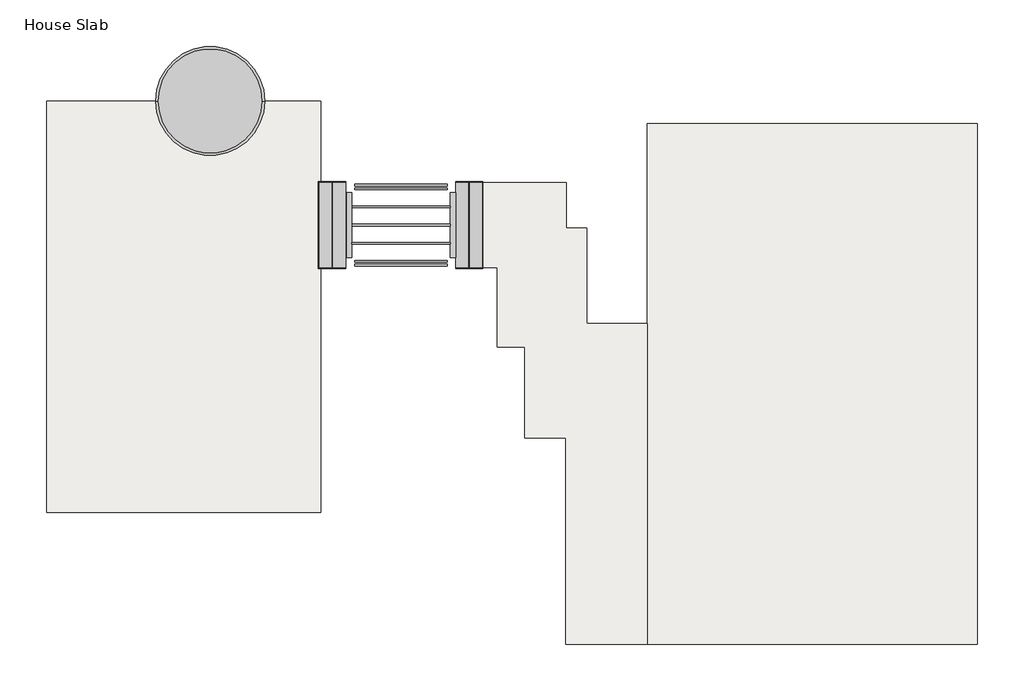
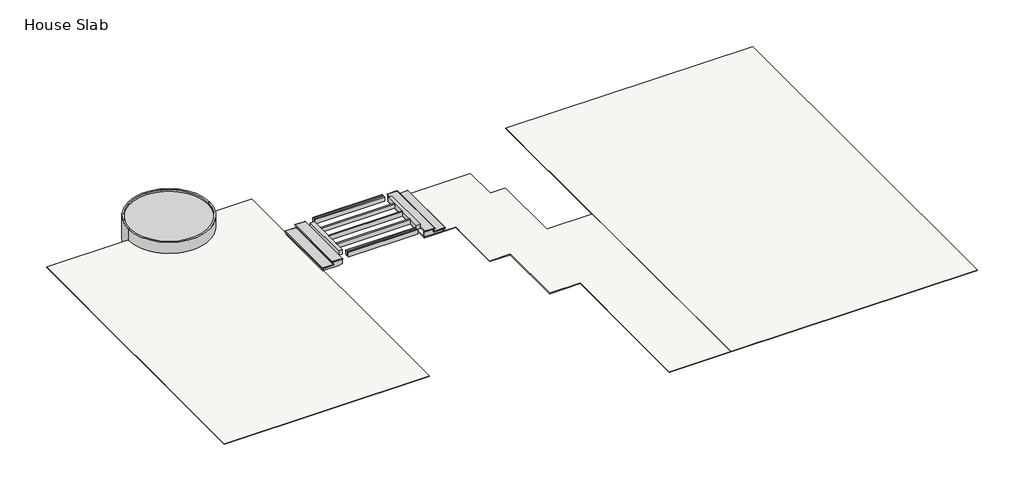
# One storey, incomplete: 9 beams, 4 members, 3 slabs, 2 stair flights, 1 flow terminal.
"""IFC4 building model written with IfcOpenShell, lengths in millimetres."""

from ifc_helpers import new_model, si_unit, point, frame, frame_2d, origin, place, context, project, spatial, polyline, circle_curve, trimmed, segment, composite_curve, outline, extrude, faceted_brep, transform, mapped, element, save
from components import dimension_lumber_1_2x_x6_88afd8e4, dimension_lumber_1_2x_x6_e9ca1189, dimension_lumber_3_2x_x6_f6200c4b, flow_terminal_bd86caa1, main_stair_61a61aa4, main_stair_c9b1c475

model = new_model("IFC4")

# Units and contexts
model_context = context("Model", 3, world=origin())
ifc_project = project(units=[si_unit("LENGTHUNIT", "METRE", prefix="MILLI")], contexts=[model_context])

# Site, building, storey
site = spatial("IfcSite", under=ifc_project)
building = spatial("IfcBuilding", under=site)
storey = spatial("IfcBuildingStorey", under=building, Name="House Slab", Elevation=0.0)

# Beams
placement = place(None, origin())
dimension_lumber_1_2x_x6_shape = dimension_lumber_1_2x_x6_88afd8e4(model_context)
element("IfcBeam", 1, ObjectType="Dimension Lumber (1) 2x : x6", at=placement, inside=storey, context=model_context, shape_type="MappedRepresentation", body=[
    mapped(dimension_lumber_1_2x_x6_shape, transform((4558.6788706, -3532.4439898, 215.9), x_axis=(1.0, 0.0, 0.0), y_axis=(0.0, 1.0, 0.0), z_axis=(0.0, 0.0, 1.0))),
])
element("IfcBeam", 2, ObjectType="Dimension Lumber (1) 2x : x6", at=placement, inside=storey, context=model_context, shape_type="MappedRepresentation", body=[
    mapped(dimension_lumber_1_2x_x6_shape, transform((4558.6788706, -3938.8439898, 215.9), x_axis=(1.0, 0.0, 0.0), y_axis=(0.0, 1.0, 0.0), z_axis=(0.0, 0.0, 1.0))),
])
element("IfcBeam", 3, ObjectType="Dimension Lumber (1) 2x : x6", at=placement, inside=storey, context=model_context, shape_type="MappedRepresentation", body=[
    mapped(dimension_lumber_1_2x_x6_shape, transform((4558.6788706, -4345.2439898, 215.9), x_axis=(1.0, 0.0, 0.0), y_axis=(0.0, 1.0, 0.0), z_axis=(0.0, 0.0, 1.0))),
])
dimension_lumber_1_2x_x6_2_shape = dimension_lumber_1_2x_x6_e9ca1189(model_context)
element("IfcBeam", 4, ObjectType="Dimension Lumber (1) 2x : x6", at=placement, inside=storey, context=model_context, shape_type="MappedRepresentation", body=[
    mapped(dimension_lumber_1_2x_x6_2_shape, transform((4558.6788706, -3126.0439898, 215.9), x_axis=(1.0, 0.0, 0.0), y_axis=(0.0, 1.0, 0.0), z_axis=(0.0, 0.0, 1.0))),
])
element("IfcBeam", 5, ObjectType="Dimension Lumber (1) 2x : x6", at=placement, inside=storey, context=model_context, shape_type="MappedRepresentation", body=[
    mapped(dimension_lumber_1_2x_x6_2_shape, transform((4558.6788706, -4751.6439898, 215.9), x_axis=(1.0, 0.0, 0.0), y_axis=(0.0, 1.0, 0.0), z_axis=(0.0, 0.0, 1.0))),
])
element("IfcBeam", 6, ObjectType="Dimension Lumber (1) 2x : x6", at=placement, inside=storey, context=model_context, shape_type="MappedRepresentation", body=[
    mapped(dimension_lumber_1_2x_x6_2_shape, transform((4558.6788706, -4834.1939898, 215.9), x_axis=(1.0, 0.0, 0.0), y_axis=(0.0, 1.0, 0.0), z_axis=(0.0, 0.0, 1.0))),
])
element("IfcBeam", 7, ObjectType="Dimension Lumber (1) 2x : x6", at=placement, inside=storey, context=model_context, shape_type="MappedRepresentation", body=[
    mapped(dimension_lumber_1_2x_x6_2_shape, transform((4558.6788706, -3043.4939898, 215.9), x_axis=(1.0, 0.0, 0.0), y_axis=(0.0, 1.0, 0.0), z_axis=(0.0, 0.0, 1.0))),
])
dimension_lumber_3_2x_x6_shape = dimension_lumber_3_2x_x6_f6200c4b(model_context)
element("IfcBeam", 8, ObjectType="Dimension Lumber (3) 2x : x6", at=placement, inside=storey, context=model_context, shape_type="MappedRepresentation", body=[
    mapped(dimension_lumber_3_2x_x6_shape, transform((3396.6288706, -3919.7939898, 215.9), x_axis=(0.0, 1.0, 0.0), y_axis=(-1.0, 0.0, 0.0), z_axis=(0.0, 0.0, 1.0))),
])
element("IfcBeam", 9, ObjectType="Dimension Lumber (3) 2x : x6", at=placement, inside=storey, context=model_context, shape_type="MappedRepresentation", body=[
    mapped(dimension_lumber_3_2x_x6_shape, transform((5720.7288706, -3919.7939898, 215.9), x_axis=(0.0, 1.0, 0.0), y_axis=(-1.0, 0.0, 0.0), z_axis=(0.0, 0.0, 1.0))),
])

# Flow terminal
flow_terminal_shape = flow_terminal_bd86caa1(model_context)
element("IfcFlowTerminal", 10, ObjectType="Ofuro Tub Round : Ofuro Tub Round", at=placement, inside=storey, context=model_context, shape_type="MappedRepresentation", body=[
    mapped(flow_terminal_shape, transform((291.4788706, -1163.8939898, -463.3595), x_axis=(1.0, 0.0, 0.0), y_axis=(0.0, 1.0, 0.0), z_axis=(0.0, 0.0, 1.0))),
])

# Members
element("IfcMember", 11, ObjectType="Carriage - 1.5\" Width", at=placement, inside=storey, context=model_context, shape_type="SweptSolid", body=[
    extrude(outline(polyline([(35.4635791, 3320.4288706), (184.15, 3320.4288706), (184.15, 3060.0788706), (82.55, 3060.0788706), (82.55, 2755.2788706), (0.0, 2755.2788706), (0.0, 3214.0381334), (35.4635791, 3320.4288706)])), frame((0.0, -3030.7939898, 0.0), z_axis=(0.0, 1.0, 0.0), x_axis=(0.0, 0.0, 1.0)), (0.0, 0.0, 1.0), 38.1),
])
element("IfcMember", 12, ObjectType="Carriage - 1.5\" Width", at=placement, inside=storey, context=model_context, shape_type="SweptSolid", body=[
    extrude(outline(polyline([(35.4635791, 3320.4288706), (184.15, 3320.4288706), (184.15, 3060.0788706), (82.55, 3060.0788706), (82.55, 2755.2788706), (0.0, 2755.2788706), (0.0, 3214.0381334), (35.4635791, 3320.4288706)])), frame((0.0, -4884.9939898, 0.0), z_axis=(0.0, 1.0, 0.0), x_axis=(0.0, 0.0, 1.0)), (0.0, 0.0, 1.0), 38.1),
])
element("IfcMember", 13, ObjectType="Carriage - 1.5\" Width", at=placement, inside=storey, context=model_context, shape_type="SweptSolid", body=[
    extrude(outline(polyline([(184.15, 5777.8788706), (35.4635791, 5777.8788706), (0.0, 5884.2696078), (0.0, 6343.0288706), (82.55, 6343.0288706), (82.55, 6038.2288706), (184.15, 6038.2288706), (184.15, 5777.8788706)])), frame((0.0, -4884.9939898, 0.0), z_axis=(0.0, 1.0, 0.0), x_axis=(0.0, 0.0, 1.0)), (0.0, 0.0, 1.0), 38.1),
])
element("IfcMember", 14, ObjectType="Carriage - 1.5\" Width", at=placement, inside=storey, context=model_context, shape_type="SweptSolid", body=[
    extrude(outline(polyline([(184.15, 5777.8788706), (35.4635791, 5777.8788706), (0.0, 5884.2696078), (0.0, 6343.0288706), (82.55, 6343.0288706), (82.55, 6038.2288706), (184.15, 6038.2288706), (184.15, 5777.8788706)])), frame((0.0, -3030.7939898, 0.0), z_axis=(0.0, 1.0, 0.0), x_axis=(0.0, 0.0, 1.0)), (0.0, 0.0, 1.0), 38.1),
])

# Slabs
element("IfcSlab", 15, ObjectType="Deck", at=placement, inside=storey, context=model_context, shape_type="SweptSolid", body=[
    extrude(outline(composite_curve([segment(polyline([(2761.6288706, -10371.3939898), (-3366.1211294, -10371.3939898), (-3366.1211294, -1163.8939898), (-927.7211294, -1163.8939898)]), True, "CONTINUOUS"), segment(trimmed(circle_curve(frame_2d((291.4788706, -1163.8939898)), 1219.2), [point((-927.7211294, -1163.8939898))], [point((1510.6788706, -1163.8939898))], True, "CARTESIAN"), True, "CONTINUOUS"), segment(polyline([(1510.6788706, -1163.8939898), (2761.6288706, -1163.8939898), (2761.6288706, -10371.3939898)]), True, "CONTINUOUS")], self_intersect=False)), frame((0.0, 0.0, -19.05), z_axis=(0.0, 0.0, 1.0), x_axis=(1.0, 0.0, 0.0)), (0.0, 0.0, 1.0), 19.05),
])
element("IfcSlab", 16, ObjectType="Deck", at=placement, inside=storey, context=model_context, shape_type="Brep", body=[
    faceted_brep([(17442.8288706, -13317.7939898, -19.05), (10064.1288706, -13317.7939898, -19.05), (10064.1288706, -6142.2939898, -19.05), (10064.1288706, -1671.8939898, -19.05), (17442.8288706, -1671.8939898, -19.05), (17442.8288706, -13317.7939898, 0.0), (17442.8288706, -1671.8939898, 0.0), (10064.1288706, -1671.8939898, 0.0), (10064.1288706, -6142.2939898, 0.0), (10064.1288706, -13317.7939898, 0.0)], [[[0, 1, 2, 3, 4]], [[5, 6, 7, 8, 9]], [[1, 0, 5, 9]], [[3, 2, 1, 9, 8, 7]], [[4, 3, 7, 6]], [[0, 4, 6, 5]]]),
])
element("IfcSlab", 17, ObjectType="Deck", at=placement, inside=storey, context=model_context, shape_type="SweptSolid", body=[
    extrude(outline(polyline([(10064.1288706, -6142.2939898), (10064.1288706, -13317.7939898), (8235.3288706, -13317.7939898), (8235.3288706, -8694.9939898), (7320.9288706, -8694.9939898), (7320.9288706, -6662.9939898), (6711.3288706, -6662.9939898), (6711.3288706, -4884.9939898), (5777.8788706, -4884.9939898), (5777.8788706, -2992.6939898), (8248.0288706, -2992.6939898), (8248.0288706, -4008.6939898), (8705.2288706, -4008.6939898), (8705.2288706, -6142.2939898), (10064.1288706, -6142.2939898)])), frame((0.0, 0.0, -19.05), z_axis=(0.0, 0.0, 1.0), x_axis=(1.0, 0.0, 0.0)), (0.0, 0.0, 1.0), 19.05),
])

# Stair flights
main_stair_shape = main_stair_61a61aa4(model_context)
element("IfcStairFlight", 18, ObjectType="Main Stair", at=placement, inside=storey, context=model_context, shape_type="MappedRepresentation", body=[
    mapped(main_stair_shape, transform((0.0, 0.0, 0.0), x_axis=(1.0, 0.0, 0.0), y_axis=(0.0, 1.0, 0.0), z_axis=(0.0, 0.0, 1.0))),
])
main_stair_2_shape = main_stair_c9b1c475(model_context)
element("IfcStairFlight", 19, ObjectType="Main Stair", at=placement, inside=storey, context=model_context, shape_type="MappedRepresentation", body=[
    mapped(main_stair_2_shape, transform((0.0, 0.0, 0.0), x_axis=(1.0, 0.0, 0.0), y_axis=(0.0, 1.0, 0.0), z_axis=(0.0, 0.0, 1.0))),
])

save(model, "model.ifc")
